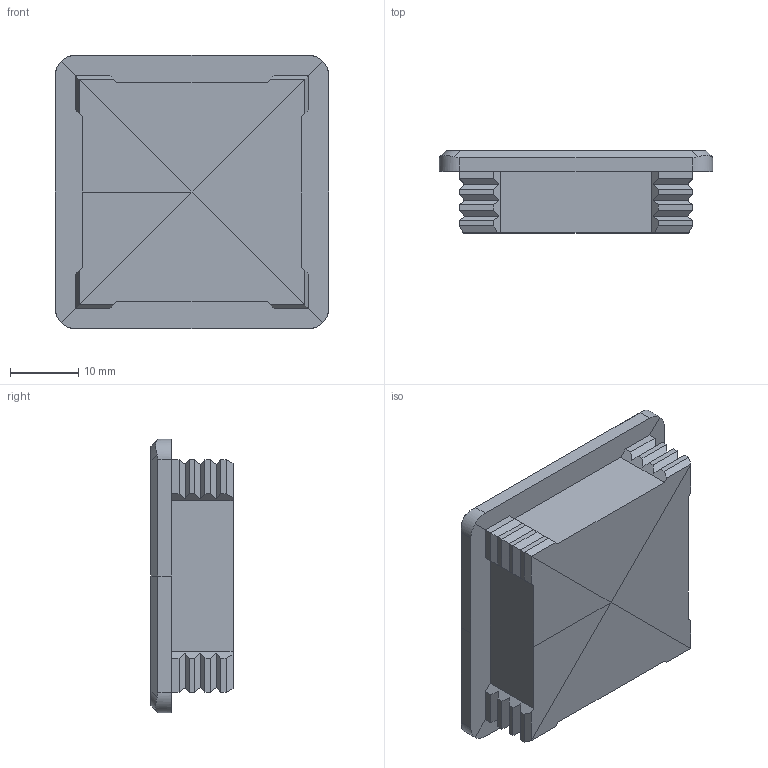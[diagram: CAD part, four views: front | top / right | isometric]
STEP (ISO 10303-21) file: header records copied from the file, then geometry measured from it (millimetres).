
FILE_DESCRIPTION (( 'STEP AP203' ), '1' );
FILE_NAME ('3D_GV1732_40x40x3_188686047.STEP', '2024-10-03T06:57:04', ( '' ), ( '' ), 'SwSTEP 2.0', 'SolidWorks 2024', '' );
FILE_SCHEMA (( 'CONFIG_CONTROL_DESIGN' ));
Length unit declared in the file: millimetre
Products named in the file (1): 3D_GV1732_40x40x3_188686047
Bounding box: 40 x 12 x 40 mm (x, y, z)
Volume: 14201.7 mm3; surface area: 4849.1 mm2
Topology: 1 solids, 1 shells, 132 faces, 336 edges, 206 vertices
Faces by surface type: plane 124, cylinder 8
Entity records: 3913 total; most frequent: CARTESIAN_POINT 735, ORIENTED_EDGE 672, DIRECTION 590, EDGE_CURVE 336, VECTOR 308, LINE 308, VERTEX_POINT 206, AXIS2_PLACEMENT_3D 141
